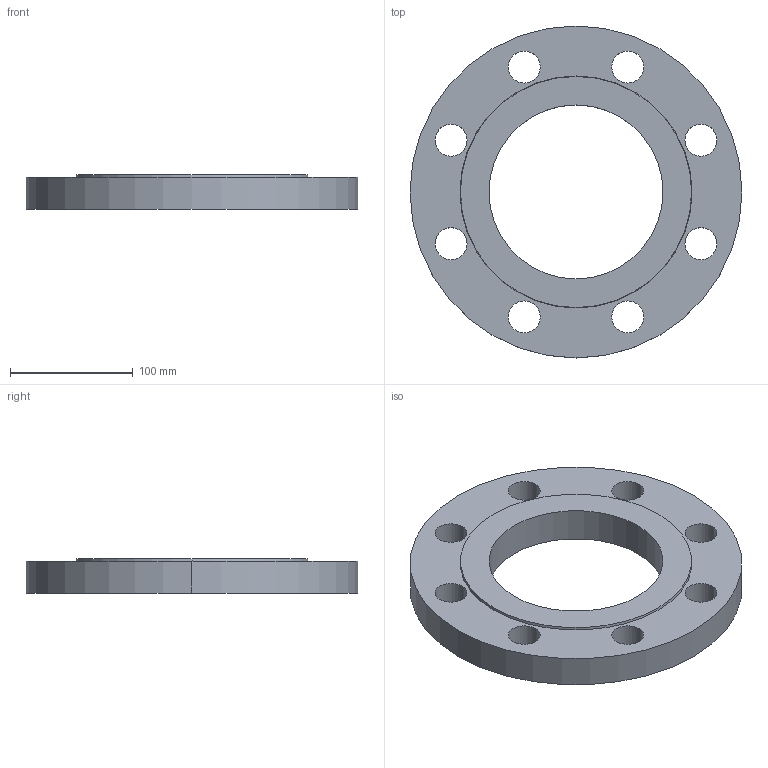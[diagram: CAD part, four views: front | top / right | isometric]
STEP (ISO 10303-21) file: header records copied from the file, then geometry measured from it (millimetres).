
FILE_DESCRIPTION (( 'STEP AP214' ), '1' );
FILE_NAME ('PN40 DN125 Type 01 - Type B Face.STEP', '2019-01-02T19:40:34', ( '' ), ( '' ), 'SwSTEP 2.0', 'SolidWorks 2019', '' );
FILE_SCHEMA (( 'AUTOMOTIVE_DESIGN' ));
Length unit declared in the file: millimetre
Products named in the file (1): PN40 DN125 Type 01 - Type B Face
Bounding box: 270 x 270 x 28 mm (x, y, z)
Volume: 993624.9 mm3; surface area: 127049 mm2
Topology: 1 solids, 1 shells, 25 faces, 66 edges, 44 vertices
Faces by surface type: cylinder 20, plane 3, cone 2
Entity records: 874 total; most frequent: DIRECTION 162, CARTESIAN_POINT 136, ORIENTED_EDGE 132, AXIS2_PLACEMENT_3D 70, EDGE_CURVE 66, CIRCLE 44, EDGE_LOOP 44, VERTEX_POINT 44
